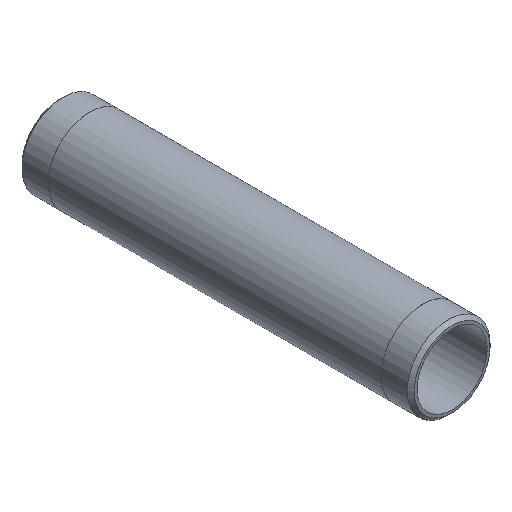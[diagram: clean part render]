
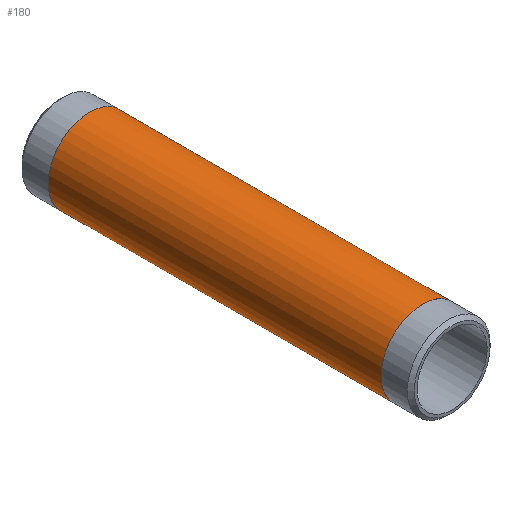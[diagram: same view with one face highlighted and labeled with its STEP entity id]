
A CAD part, isometric view. The second image highlights one B-rep face of the part: STEP entity #180.
In plain terms, the highlighted cylindrical face has radius 24.13 mm (diameter 48.26 mm), a full revolution.
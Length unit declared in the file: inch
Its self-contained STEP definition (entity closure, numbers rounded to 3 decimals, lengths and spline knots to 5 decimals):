
#25=CYLINDRICAL_SURFACE('',#220,0.95);
#34=FACE_OUTER_BOUND('',#47,.T.);
#47=EDGE_LOOP('',(#155,#156,#157,#158,#159,#160));
#55=LINE('',#338,#61);
#61=VECTOR('',#283,0.95);
#77=CIRCLE('',#218,0.95);
#78=CIRCLE('',#219,0.95);
#79=CIRCLE('',#221,0.95);
#80=CIRCLE('',#222,0.95);
#95=VERTEX_POINT('',#329);
#96=VERTEX_POINT('',#330);
#97=VERTEX_POINT('',#334);
#98=VERTEX_POINT('',#335);
#117=EDGE_CURVE('',#95,#96,#77,.T.);
#118=EDGE_CURVE('',#96,#95,#78,.T.);
#119=EDGE_CURVE('',#97,#98,#79,.T.);
#120=EDGE_CURVE('',#98,#97,#80,.T.);
#121=EDGE_CURVE('',#98,#96,#55,.T.);
#155=ORIENTED_EDGE('',*,*,#119,.F.);
#156=ORIENTED_EDGE('',*,*,#120,.F.);
#157=ORIENTED_EDGE('',*,*,#121,.T.);
#158=ORIENTED_EDGE('',*,*,#118,.T.);
#159=ORIENTED_EDGE('',*,*,#117,.T.);
#160=ORIENTED_EDGE('',*,*,#121,.F.);
#180=ADVANCED_FACE('',(#34),#25,.T.);
#218=AXIS2_PLACEMENT_3D('',#331,#273,#274);
#219=AXIS2_PLACEMENT_3D('',#332,#275,#276);
#220=AXIS2_PLACEMENT_3D('',#333,#277,#278);
#221=AXIS2_PLACEMENT_3D('',#336,#279,#280);
#222=AXIS2_PLACEMENT_3D('',#337,#281,#282);
#273=DIRECTION('center_axis',(0.,-1.,0.));
#274=DIRECTION('ref_axis',(1.,0.,0.));
#275=DIRECTION('center_axis',(0.,-1.,0.));
#276=DIRECTION('ref_axis',(1.,0.,0.));
#277=DIRECTION('center_axis',(0.,-1.,0.));
#278=DIRECTION('ref_axis',(0.,0.,-1.));
#279=DIRECTION('center_axis',(0.,-1.,0.));
#280=DIRECTION('ref_axis',(1.,0.,0.));
#281=DIRECTION('center_axis',(0.,-1.,0.));
#282=DIRECTION('ref_axis',(1.,0.,0.));
#283=DIRECTION('',(0.,1.,0.));
#329=CARTESIAN_POINT('',(0.,8.319,-0.95));
#330=CARTESIAN_POINT('',(0.,8.319,0.95));
#331=CARTESIAN_POINT('Origin',(0.,8.319,0.));
#332=CARTESIAN_POINT('Origin',(0.,8.319,0.));
#333=CARTESIAN_POINT('Origin',(0.,4.5,0.));
#334=CARTESIAN_POINT('',(0.,0.681,-0.95));
#335=CARTESIAN_POINT('',(0.,0.681,0.95));
#336=CARTESIAN_POINT('Origin',(0.,0.681,0.));
#337=CARTESIAN_POINT('Origin',(0.,0.681,0.));
#338=CARTESIAN_POINT('',(0.,4.5,0.95));
